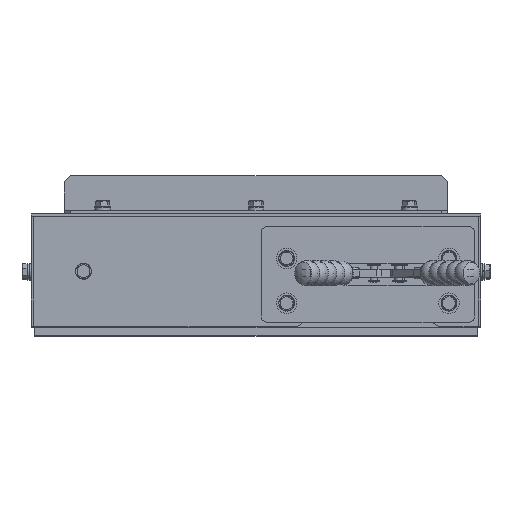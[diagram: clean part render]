
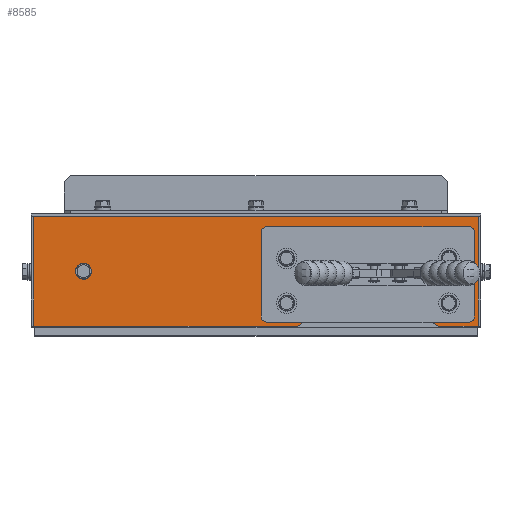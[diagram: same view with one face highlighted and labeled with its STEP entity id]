
A CAD part, top view. The second image highlights one B-rep face of the part: STEP entity #8585.
In plain terms, the highlighted planar face has unit normal (0, 0, 1) as drawn and (1, 0, 0) by its records, which use the part's own axes.
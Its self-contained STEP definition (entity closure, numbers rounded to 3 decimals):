
#946=FACE_BOUND('',#2153,.T.);
#947=FACE_BOUND('',#2154,.T.);
#948=FACE_BOUND('',#2155,.T.);
#949=FACE_BOUND('',#2156,.T.);
#950=FACE_BOUND('',#2157,.T.);
#1178=PLANE('',#9730);
#1578=FACE_OUTER_BOUND('',#2152,.T.);
#2152=EDGE_LOOP('',(#7136,#7137,#7138,#7139,#7140,#7141,#7142,#7143,#7144,
#7145,#7146,#7147));
#2153=EDGE_LOOP('',(#7148));
#2154=EDGE_LOOP('',(#7149));
#2155=EDGE_LOOP('',(#7150));
#2156=EDGE_LOOP('',(#7151));
#2157=EDGE_LOOP('',(#7152));
#2796=LINE('',#14573,#3357);
#2799=LINE('',#14579,#3360);
#2800=LINE('',#14581,#3361);
#2801=LINE('',#14583,#3362);
#2802=LINE('',#14585,#3363);
#2803=LINE('',#14587,#3364);
#2804=LINE('',#14591,#3365);
#2805=LINE('',#14595,#3366);
#3357=VECTOR('',#11614,10.);
#3360=VECTOR('',#11619,10.);
#3361=VECTOR('',#11620,10.);
#3362=VECTOR('',#11621,10.);
#3363=VECTOR('',#11622,10.);
#3364=VECTOR('',#11623,10.);
#3365=VECTOR('',#11626,10.);
#3366=VECTOR('',#11629,10.);
#3812=CIRCLE('',#9716,4.);
#3814=CIRCLE('',#9719,4.);
#3816=CIRCLE('',#9722,4.);
#3818=CIRCLE('',#9725,4.);
#3820=CIRCLE('',#9728,5.);
#3821=CIRCLE('',#9731,5.);
#3822=CIRCLE('',#9732,5.);
#3823=CIRCLE('',#9733,5.);
#3824=CIRCLE('',#9734,4.);
#4428=VERTEX_POINT('',#14541);
#4430=VERTEX_POINT('',#14547);
#4432=VERTEX_POINT('',#14553);
#4434=VERTEX_POINT('',#14559);
#4437=VERTEX_POINT('',#14566);
#4438=VERTEX_POINT('',#14568);
#4439=VERTEX_POINT('',#14572);
#4441=VERTEX_POINT('',#14578);
#4442=VERTEX_POINT('',#14580);
#4443=VERTEX_POINT('',#14582);
#4444=VERTEX_POINT('',#14584);
#4445=VERTEX_POINT('',#14586);
#4446=VERTEX_POINT('',#14588);
#4447=VERTEX_POINT('',#14590);
#4448=VERTEX_POINT('',#14592);
#4449=VERTEX_POINT('',#14594);
#4450=VERTEX_POINT('',#14597);
#5383=EDGE_CURVE('',#4428,#4428,#3812,.T.);
#5386=EDGE_CURVE('',#4430,#4430,#3814,.T.);
#5389=EDGE_CURVE('',#4432,#4432,#3816,.T.);
#5392=EDGE_CURVE('',#4434,#4434,#3818,.T.);
#5395=EDGE_CURVE('',#4437,#4438,#3820,.T.);
#5397=EDGE_CURVE('',#4439,#4438,#2796,.T.);
#5400=EDGE_CURVE('',#4437,#4441,#2799,.T.);
#5401=EDGE_CURVE('',#4441,#4442,#2800,.T.);
#5402=EDGE_CURVE('',#4442,#4443,#2801,.T.);
#5403=EDGE_CURVE('',#4443,#4444,#2802,.T.);
#5404=EDGE_CURVE('',#4444,#4445,#2803,.T.);
#5405=EDGE_CURVE('',#4446,#4445,#3821,.T.);
#5406=EDGE_CURVE('',#4446,#4447,#2804,.T.);
#5407=EDGE_CURVE('',#4448,#4447,#3822,.T.);
#5408=EDGE_CURVE('',#4448,#4449,#2805,.T.);
#5409=EDGE_CURVE('',#4439,#4449,#3823,.T.);
#5410=EDGE_CURVE('',#4450,#4450,#3824,.T.);
#7136=ORIENTED_EDGE('',*,*,#5395,.F.);
#7137=ORIENTED_EDGE('',*,*,#5400,.T.);
#7138=ORIENTED_EDGE('',*,*,#5401,.T.);
#7139=ORIENTED_EDGE('',*,*,#5402,.T.);
#7140=ORIENTED_EDGE('',*,*,#5403,.T.);
#7141=ORIENTED_EDGE('',*,*,#5404,.T.);
#7142=ORIENTED_EDGE('',*,*,#5405,.F.);
#7143=ORIENTED_EDGE('',*,*,#5406,.T.);
#7144=ORIENTED_EDGE('',*,*,#5407,.F.);
#7145=ORIENTED_EDGE('',*,*,#5408,.T.);
#7146=ORIENTED_EDGE('',*,*,#5409,.F.);
#7147=ORIENTED_EDGE('',*,*,#5397,.T.);
#7148=ORIENTED_EDGE('',*,*,#5383,.T.);
#7149=ORIENTED_EDGE('',*,*,#5386,.T.);
#7150=ORIENTED_EDGE('',*,*,#5389,.T.);
#7151=ORIENTED_EDGE('',*,*,#5392,.T.);
#7152=ORIENTED_EDGE('',*,*,#5410,.T.);
#8585=ADVANCED_FACE('',(#1578,#946,#947,#948,#949,#950),#1178,.T.);
#9716=AXIS2_PLACEMENT_3D('',#14543,#11581,#11582);
#9719=AXIS2_PLACEMENT_3D('',#14549,#11588,#11589);
#9722=AXIS2_PLACEMENT_3D('',#14555,#11595,#11596);
#9725=AXIS2_PLACEMENT_3D('',#14561,#11602,#11603);
#9728=AXIS2_PLACEMENT_3D('',#14569,#11609,#11610);
#9730=AXIS2_PLACEMENT_3D('',#14577,#11617,#11618);
#9731=AXIS2_PLACEMENT_3D('',#14589,#11624,#11625);
#9732=AXIS2_PLACEMENT_3D('',#14593,#11627,#11628);
#9733=AXIS2_PLACEMENT_3D('',#14596,#11630,#11631);
#9734=AXIS2_PLACEMENT_3D('',#14598,#11632,#11633);
#11581=DIRECTION('center_axis',(-1.,0.,0.));
#11582=DIRECTION('ref_axis',(0.,0.,-1.));
#11588=DIRECTION('center_axis',(-1.,0.,0.));
#11589=DIRECTION('ref_axis',(0.,0.,-1.));
#11595=DIRECTION('center_axis',(-1.,0.,0.));
#11596=DIRECTION('ref_axis',(0.,0.,-1.));
#11602=DIRECTION('center_axis',(-1.,0.,0.));
#11603=DIRECTION('ref_axis',(0.,0.,-1.));
#11609=DIRECTION('center_axis',(-1.,0.,0.));
#11610=DIRECTION('ref_axis',(0.,-0.707,0.707));
#11614=DIRECTION('',(0.,-1.,0.));
#11617=DIRECTION('center_axis',(1.,0.,0.));
#11618=DIRECTION('ref_axis',(0.,0.,-1.));
#11619=DIRECTION('',(0.,0.,-1.));
#11620=DIRECTION('',(0.,1.,0.));
#11621=DIRECTION('',(0.,0.,1.));
#11622=DIRECTION('',(0.,-1.,0.));
#11623=DIRECTION('',(0.,0.,-1.));
#11624=DIRECTION('center_axis',(-1.,0.,0.));
#11625=DIRECTION('ref_axis',(0.,-0.707,-0.707));
#11626=DIRECTION('',(0.,1.,0.));
#11627=DIRECTION('center_axis',(1.,0.,0.));
#11628=DIRECTION('ref_axis',(0.,0.707,0.707));
#11629=DIRECTION('',(0.,0.,-1.));
#11630=DIRECTION('center_axis',(1.,0.,0.));
#11631=DIRECTION('ref_axis',(0.,0.707,-0.707));
#11632=DIRECTION('center_axis',(-1.,0.,0.));
#11633=DIRECTION('ref_axis',(0.,0.,-1.));
#14541=CARTESIAN_POINT('',(286.,-70.,-147.));
#14543=CARTESIAN_POINT('Origin',(286.,-70.,-151.));
#14547=CARTESIAN_POINT('',(286.,-35.,-147.));
#14549=CARTESIAN_POINT('Origin',(286.,-35.,-151.));
#14553=CARTESIAN_POINT('',(286.,-70.,-20.));
#14555=CARTESIAN_POINT('Origin',(286.,-70.,-24.));
#14559=CARTESIAN_POINT('',(286.,-35.,-20.));
#14561=CARTESIAN_POINT('Origin',(286.,-35.,-24.));
#14566=CARTESIAN_POINT('',(286.,-88.,-143.5));
#14568=CARTESIAN_POINT('',(286.,-83.,-138.5));
#14569=CARTESIAN_POINT('Origin',(286.,-83.,-143.5));
#14572=CARTESIAN_POINT('',(286.,-26.,-138.5));
#14573=CARTESIAN_POINT('',(286.,-33.,-138.5));
#14577=CARTESIAN_POINT('Origin',(286.,-45.,0.));
#14578=CARTESIAN_POINT('',(286.,-88.,-174.));
#14579=CARTESIAN_POINT('',(286.,-88.,174.));
#14580=CARTESIAN_POINT('',(286.,-2.,-174.));
#14581=CARTESIAN_POINT('',(286.,-88.,-174.));
#14582=CARTESIAN_POINT('',(286.,-2.,174.));
#14583=CARTESIAN_POINT('',(286.,-2.,-174.));
#14584=CARTESIAN_POINT('',(286.,-88.,174.));
#14585=CARTESIAN_POINT('',(286.,-2.,174.));
#14586=CARTESIAN_POINT('',(286.,-88.,-31.5));
#14587=CARTESIAN_POINT('',(286.,-88.,174.));
#14588=CARTESIAN_POINT('',(286.,-83.,-36.5));
#14589=CARTESIAN_POINT('Origin',(286.,-83.,-31.5));
#14590=CARTESIAN_POINT('',(286.,-26.,-36.5));
#14591=CARTESIAN_POINT('',(286.,-81.52,-36.5));
#14592=CARTESIAN_POINT('',(286.,-21.,-41.5));
#14593=CARTESIAN_POINT('Origin',(286.,-26.,-41.5));
#14594=CARTESIAN_POINT('',(286.,-21.,-133.5));
#14595=CARTESIAN_POINT('',(286.,-21.,-18.25));
#14596=CARTESIAN_POINT('Origin',(286.,-26.,-133.5));
#14597=CARTESIAN_POINT('',(286.,-45.,139.));
#14598=CARTESIAN_POINT('Origin',(286.,-45.,135.));
